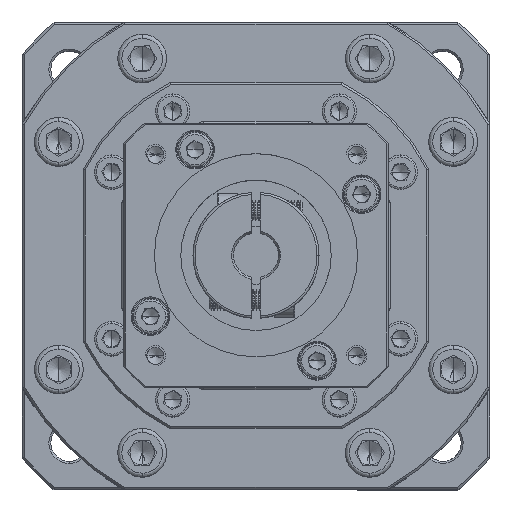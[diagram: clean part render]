
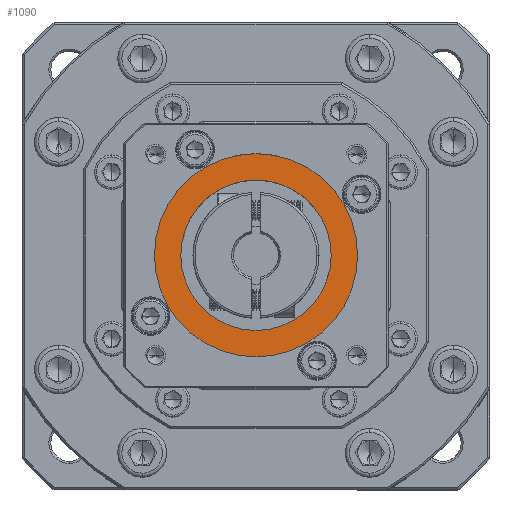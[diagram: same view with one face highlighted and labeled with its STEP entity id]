
A CAD part, top view. The second image highlights one B-rep face of the part: STEP entity #1090.
In plain terms, the highlighted planar face has unit normal (0, 0, 1).
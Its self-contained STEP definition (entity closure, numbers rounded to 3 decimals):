
#1090 = ADVANCED_FACE ( 'NONE', ( #37456, #60256 ), #81973, .T. ) ;
#2341 = EDGE_LOOP ( 'NONE', ( #41506, #64630 ) ) ;
#4484 = DIRECTION ( 'NONE',  ( 1., 0., 0. ) ) ;
#5746 = CARTESIAN_POINT ( 'NONE',  ( -46.764, 41.351, -6.936 ) ) ;
#8710 = AXIS2_PLACEMENT_3D ( 'NONE', #35571, #103651, #45379 ) ;
#10759 = EDGE_LOOP ( 'NONE', ( #15110, #64707 ) ) ;
#11345 = VERTEX_POINT ( 'NONE', #53717 ) ;
#14407 = DIRECTION ( 'NONE',  ( 0., 0., 1. ) ) ;
#15110 = ORIENTED_EDGE ( 'NONE', *, *, #44815, .T. ) ;
#15605 = DIRECTION ( 'NONE',  ( 1., 0., 0. ) ) ;
#17140 = EDGE_CURVE ( 'NONE', #69218, #125643, #67133, .T. ) ;
#23521 = AXIS2_PLACEMENT_3D ( 'NONE', #121210, #62835, #4484 ) ;
#35571 = CARTESIAN_POINT ( 'NONE',  ( -46.764, 41.351, -6.936 ) ) ;
#36081 = CARTESIAN_POINT ( 'NONE',  ( -71.764, 41.351, -6.936 ) ) ;
#36879 = EDGE_CURVE ( 'NONE', #125643, #69218, #100100, .T. ) ;
#37456 = FACE_OUTER_BOUND ( 'NONE', #2341, .T. ) ;
#37734 = AXIS2_PLACEMENT_3D ( 'NONE', #5746, #73911, #15605 ) ;
#39889 = CIRCLE ( 'NONE', #69235, 18.5 ) ;
#41506 = ORIENTED_EDGE ( 'NONE', *, *, #17140, .T. ) ;
#44815 = EDGE_CURVE ( 'NONE', #111850, #11345, #124117, .T. ) ;
#45379 = DIRECTION ( 'NONE',  ( 1., 0., 0. ) ) ;
#47067 = CARTESIAN_POINT ( 'NONE',  ( -46.764, 41.351, -6.936 ) ) ;
#53717 = CARTESIAN_POINT ( 'NONE',  ( -65.264, 41.351, -6.936 ) ) ;
#56803 = DIRECTION ( 'NONE',  ( 1., 0., 0. ) ) ;
#60256 = FACE_BOUND ( 'NONE', #10759, .T. ) ;
#62835 = DIRECTION ( 'NONE',  ( 0., 0., 1. ) ) ;
#64630 = ORIENTED_EDGE ( 'NONE', *, *, #36879, .T. ) ;
#64707 = ORIENTED_EDGE ( 'NONE', *, *, #119591, .T. ) ;
#67133 = CIRCLE ( 'NONE', #37734, 25. ) ;
#69218 = VERTEX_POINT ( 'NONE', #111826 ) ;
#69235 = AXIS2_PLACEMENT_3D ( 'NONE', #47067, #115145, #56803 ) ;
#72702 = CARTESIAN_POINT ( 'NONE',  ( -46.764, 41.351, -6.936 ) ) ;
#73911 = DIRECTION ( 'NONE',  ( 0., 0., 1. ) ) ;
#81973 = PLANE ( 'NONE',  #23521 ) ;
#82484 = DIRECTION ( 'NONE',  ( 1., 0., 0. ) ) ;
#90362 = AXIS2_PLACEMENT_3D ( 'NONE', #72702, #14407, #82484 ) ;
#97943 = CARTESIAN_POINT ( 'NONE',  ( -28.264, 41.351, -6.936 ) ) ;
#100100 = CIRCLE ( 'NONE', #90362, 25. ) ;
#103651 = DIRECTION ( 'NONE',  ( 0., 0., -1. ) ) ;
#111826 = CARTESIAN_POINT ( 'NONE',  ( -21.764, 41.351, -6.936 ) ) ;
#111850 = VERTEX_POINT ( 'NONE', #97943 ) ;
#115145 = DIRECTION ( 'NONE',  ( 0., 0., -1. ) ) ;
#119591 = EDGE_CURVE ( 'NONE', #11345, #111850, #39889, .T. ) ;
#121210 = CARTESIAN_POINT ( 'NONE',  ( -46.764, 41.351, -6.936 ) ) ;
#124117 = CIRCLE ( 'NONE', #8710, 18.5 ) ;
#125643 = VERTEX_POINT ( 'NONE', #36081 ) ;
